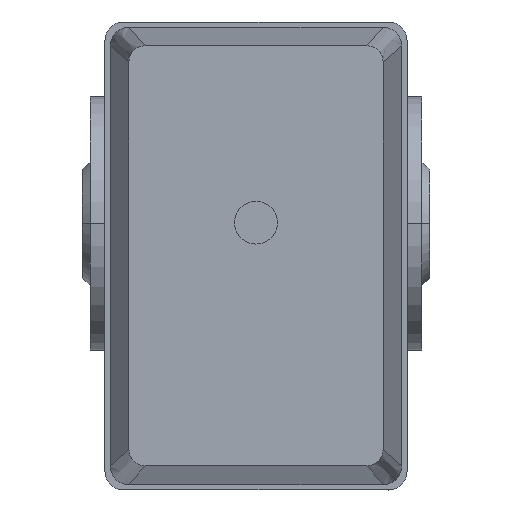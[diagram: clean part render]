
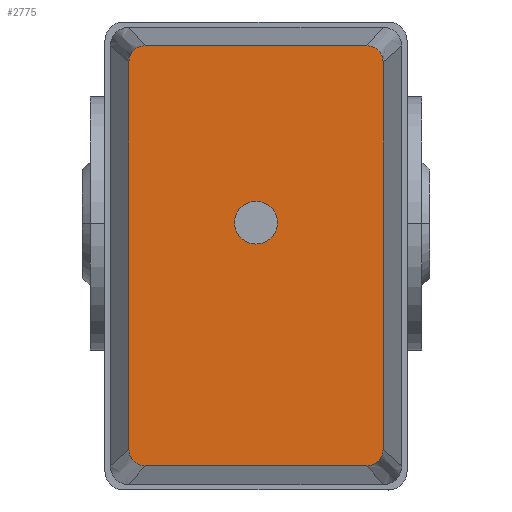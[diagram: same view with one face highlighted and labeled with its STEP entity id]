
A CAD part, top view. The second image highlights one B-rep face of the part: STEP entity #2775.
In plain terms, the highlighted planar face has unit normal (0, 0, 1).
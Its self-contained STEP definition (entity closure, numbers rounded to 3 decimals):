
#263=LINE('',#4726,#432);
#264=LINE('',#4730,#433);
#265=LINE('',#4734,#434);
#266=LINE('',#4738,#435);
#432=VECTOR('',#3864,304.8);
#433=VECTOR('',#3867,304.8);
#434=VECTOR('',#3870,304.8);
#435=VECTOR('',#3873,304.8);
#712=FACE_OUTER_BOUND('',#903,.T.);
#903=EDGE_LOOP('',(#2205,#2206,#2207,#2208,#2209,#2210,#2211,#2212));
#1082=CIRCLE('',#3108,6.);
#1083=CIRCLE('',#3109,6.);
#1084=CIRCLE('',#3110,6.);
#1085=CIRCLE('',#3111,6.);
#1296=VERTEX_POINT('',#4724);
#1297=VERTEX_POINT('',#4725);
#1298=VERTEX_POINT('',#4727);
#1299=VERTEX_POINT('',#4729);
#1300=VERTEX_POINT('',#4731);
#1301=VERTEX_POINT('',#4733);
#1302=VERTEX_POINT('',#4735);
#1303=VERTEX_POINT('',#4737);
#1611=EDGE_CURVE('',#1296,#1297,#263,.T.);
#1612=EDGE_CURVE('',#1297,#1298,#1082,.T.);
#1613=EDGE_CURVE('',#1298,#1299,#264,.T.);
#1614=EDGE_CURVE('',#1299,#1300,#1083,.T.);
#1615=EDGE_CURVE('',#1300,#1301,#265,.T.);
#1616=EDGE_CURVE('',#1301,#1302,#1084,.T.);
#1617=EDGE_CURVE('',#1302,#1303,#266,.T.);
#1618=EDGE_CURVE('',#1303,#1296,#1085,.T.);
#2205=ORIENTED_EDGE('',*,*,#1611,.T.);
#2206=ORIENTED_EDGE('',*,*,#1612,.T.);
#2207=ORIENTED_EDGE('',*,*,#1613,.T.);
#2208=ORIENTED_EDGE('',*,*,#1614,.T.);
#2209=ORIENTED_EDGE('',*,*,#1615,.T.);
#2210=ORIENTED_EDGE('',*,*,#1616,.T.);
#2211=ORIENTED_EDGE('',*,*,#1617,.T.);
#2212=ORIENTED_EDGE('',*,*,#1618,.T.);
#2465=PLANE('',#3107);
#2775=ADVANCED_FACE('',(#712),#2465,.T.);
#3107=AXIS2_PLACEMENT_3D('',#4723,#3862,#3863);
#3108=AXIS2_PLACEMENT_3D('',#4728,#3865,#3866);
#3109=AXIS2_PLACEMENT_3D('',#4732,#3868,#3869);
#3110=AXIS2_PLACEMENT_3D('',#4736,#3871,#3872);
#3111=AXIS2_PLACEMENT_3D('',#4739,#3874,#3875);
#3862=DIRECTION('center_axis',(0.,0.,1.));
#3863=DIRECTION('ref_axis',(0.,-1.,0.));
#3864=DIRECTION('',(0.,-1.,0.));
#3865=DIRECTION('center_axis',(0.,0.,1.));
#3866=DIRECTION('ref_axis',(1.,0.,0.));
#3867=DIRECTION('',(1.,0.,0.));
#3868=DIRECTION('center_axis',(0.,0.,1.));
#3869=DIRECTION('ref_axis',(1.,0.,0.));
#3870=DIRECTION('',(0.,1.,0.));
#3871=DIRECTION('center_axis',(0.,0.,1.));
#3872=DIRECTION('ref_axis',(1.,0.,0.));
#3873=DIRECTION('',(-1.,0.,0.));
#3874=DIRECTION('center_axis',(0.,0.,1.));
#3875=DIRECTION('ref_axis',(1.,0.,0.));
#4723=CARTESIAN_POINT('Origin',(-12.5,0.002,249.));
#4724=CARTESIAN_POINT('',(-91.,41.502,249.));
#4725=CARTESIAN_POINT('',(-91.,-41.498,249.));
#4726=CARTESIAN_POINT('',(-91.,-41.498,249.));
#4727=CARTESIAN_POINT('',(-85.,-47.498,249.));
#4728=CARTESIAN_POINT('Origin',(-85.,-41.498,249.));
#4729=CARTESIAN_POINT('',(60.,-47.498,249.));
#4730=CARTESIAN_POINT('',(60.,-47.498,249.));
#4731=CARTESIAN_POINT('',(66.,-41.498,249.));
#4732=CARTESIAN_POINT('Origin',(60.,-41.498,249.));
#4733=CARTESIAN_POINT('',(66.,41.502,249.));
#4734=CARTESIAN_POINT('',(66.,41.502,249.));
#4735=CARTESIAN_POINT('',(60.,47.502,249.));
#4736=CARTESIAN_POINT('Origin',(60.,41.502,249.));
#4737=CARTESIAN_POINT('',(-85.,47.502,249.));
#4738=CARTESIAN_POINT('',(-85.,47.502,249.));
#4739=CARTESIAN_POINT('Origin',(-85.,41.502,249.));
